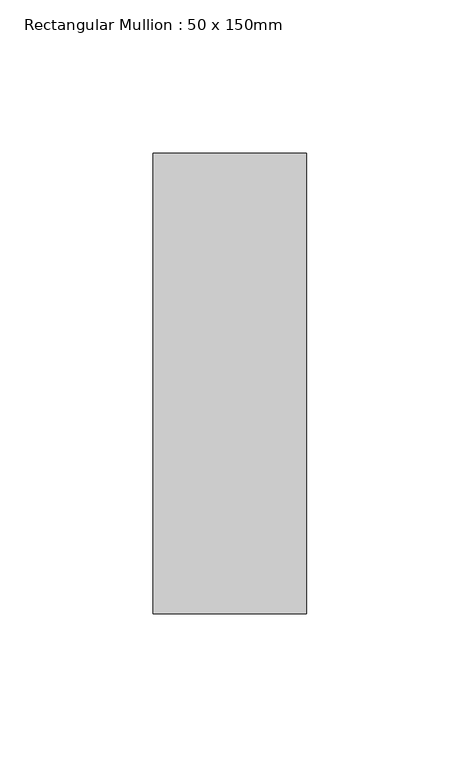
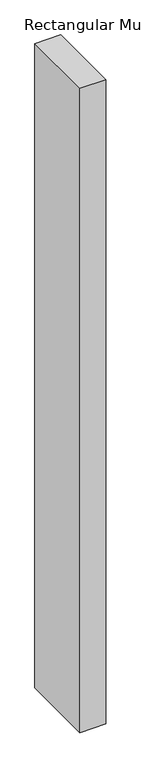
"""IFC4 building model written with IfcOpenShell, lengths in millimetres: member geometry, Rectangular Mullion : 50 x 150mm."""

from ifc_helpers import new_model, si_unit, frame, origin, place, context, project, spatial, polyline, outline, extrude, source, transform, mapped, element, save


def rectangular_mullion_50_x_150mm_b683183c(model_context):
    return source(origin(), model_context, "Body", "SweptSolid", [
        extrude(outline(polyline([(0.0, 75.0), (0.0, -75.0), (-50.0, -75.0), (-50.0, 75.0), (0.0, 75.0)])), frame((0.0, 0.0, -1311.6666667), z_axis=(0.0, 0.0, 1.0), x_axis=(1.0, 0.0, 0.0)), (0.0, 0.0, 1.0), 1311.6666667),
    ])


if __name__ == "__main__":
    model = new_model("IFC4")
    model_context = context("Model", 3, world=origin())
    ifc_project = project(units=[si_unit("LENGTHUNIT", "METRE", prefix="MILLI")], contexts=[model_context])
    site = spatial("IfcSite", under=ifc_project)
    building = spatial("IfcBuilding", under=site)
    placement = place(None, origin())
    rectangular_mullion_50_x_150mm_shape = rectangular_mullion_50_x_150mm_b683183c(model_context)
    element("IfcMember", 1, ObjectType="Rectangular Mullion : 50 x 150mm", at=placement, inside=building, context=model_context, shape_type="MappedRepresentation", body=[
        mapped(rectangular_mullion_50_x_150mm_shape, transform((0.0, 0.0, 0.0), x_axis=(1.0, 0.0, 0.0), y_axis=(0.0, 1.0, 0.0), z_axis=(0.0, 0.0, 1.0))),
    ])
    save(model, "model.ifc")
